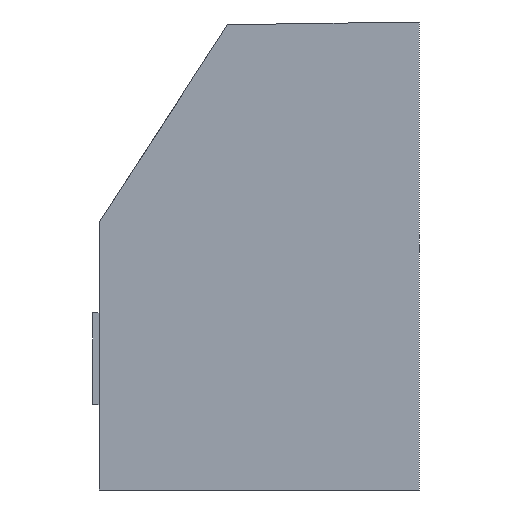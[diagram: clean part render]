
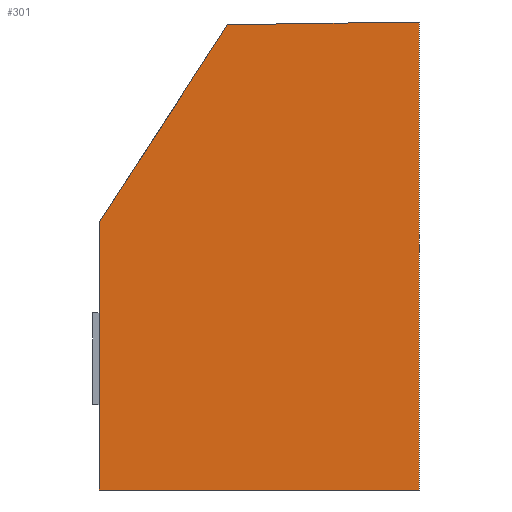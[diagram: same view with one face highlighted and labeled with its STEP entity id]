
A CAD part, left-side view. The second image highlights one B-rep face of the part: STEP entity #301.
In plain terms, the highlighted planar face has unit normal (-1, 0, 0).
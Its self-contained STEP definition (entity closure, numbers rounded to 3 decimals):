
#27=FACE_OUTER_BOUND('',#45,.T.);
#45=EDGE_LOOP('',(#228,#229,#230,#231,#232));
#72=LINE('',#459,#111);
#77=LINE('',#471,#116);
#78=LINE('',#473,#117);
#79=LINE('',#474,#118);
#80=LINE('',#475,#119);
#111=VECTOR('',#376,10.);
#116=VECTOR('',#383,10.);
#117=VECTOR('',#384,10.);
#118=VECTOR('',#385,10.);
#119=VECTOR('',#386,10.);
#143=VERTEX_POINT('',#452);
#146=VERTEX_POINT('',#457);
#151=VERTEX_POINT('',#469);
#152=VERTEX_POINT('',#470);
#153=VERTEX_POINT('',#472);
#176=EDGE_CURVE('',#143,#146,#72,.T.);
#181=EDGE_CURVE('',#151,#152,#77,.T.);
#182=EDGE_CURVE('',#152,#153,#78,.T.);
#183=EDGE_CURVE('',#153,#143,#79,.T.);
#184=EDGE_CURVE('',#146,#151,#80,.T.);
#228=ORIENTED_EDGE('',*,*,#181,.T.);
#229=ORIENTED_EDGE('',*,*,#182,.T.);
#230=ORIENTED_EDGE('',*,*,#183,.T.);
#231=ORIENTED_EDGE('',*,*,#176,.T.);
#232=ORIENTED_EDGE('',*,*,#184,.T.);
#284=PLANE('',#333);
#301=ADVANCED_FACE('',(#27),#284,.T.);
#333=AXIS2_PLACEMENT_3D('',#468,#381,#382);
#376=DIRECTION('',(0.,0.,-1.));
#381=DIRECTION('center_axis',(-1.,0.,0.));
#382=DIRECTION('ref_axis',(0.,0.,1.));
#383=DIRECTION('',(0.,0.,1.));
#384=DIRECTION('',(0.,1.,-0.014));
#385=DIRECTION('',(0.,0.545,-0.839));
#386=DIRECTION('',(0.,-1.,0.));
#452=CARTESIAN_POINT('',(-205.033,83.,-68.678));
#457=CARTESIAN_POINT('',(-205.033,83.,-160.5));
#459=CARTESIAN_POINT('',(-205.033,83.,-68.678));
#468=CARTESIAN_POINT('Origin',(-205.033,28.,-80.146));
#469=CARTESIAN_POINT('',(-205.033,-27.,-160.5));
#470=CARTESIAN_POINT('',(-205.033,-27.,0.209));
#471=CARTESIAN_POINT('',(-205.033,-27.,-160.5));
#472=CARTESIAN_POINT('',(-205.033,38.861,-0.71));
#473=CARTESIAN_POINT('',(-205.033,-27.,0.209));
#474=CARTESIAN_POINT('',(-205.033,38.861,-0.71));
#475=CARTESIAN_POINT('',(-205.033,83.,-160.5));
